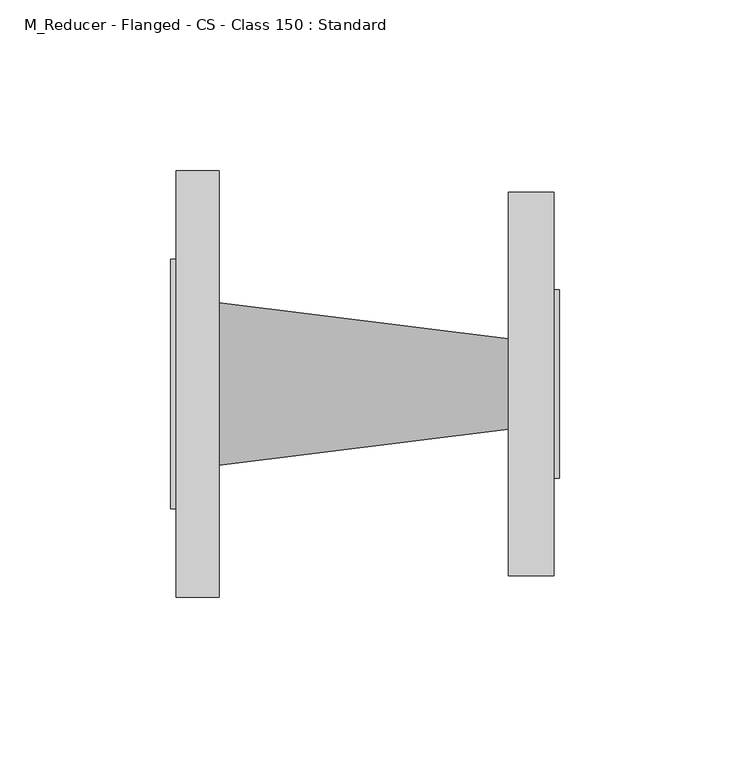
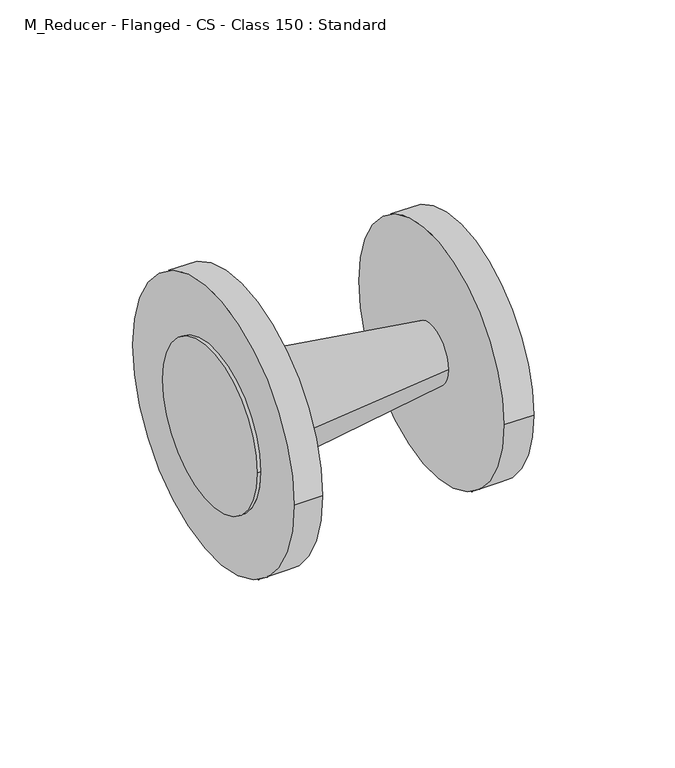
"""IFC4 building model written with IfcOpenShell, lengths in millimetres: pipe fitting geometry, M_Reducer - Flanged - CS - Class 150 : Standard."""

from ifc_helpers import new_model, si_unit, frame, origin, place, context, project, spatial, polyline, circle_curve, source, transform, mapped, element, save
from ifc_brep_helpers import plane_surface, cylinder_surface, revolved_surface, advanced_brep


def m_reducer_flanged_cs_class_150_standard_dc68ad9d(model_context):
    return source(origin(), model_context, "Body", "AdvancedBrep", [
        advanced_brep(
        [(14.2875, -62.5, 0.0), (14.2875, 62.5, 0.0), (14.2875, 23.8, 0.0), (14.2875, -23.8, 0.0), (1.5875, -62.5, 0.0), (1.5875, 62.5, 0.0), (1.5875, -36.5, 0.0), (1.5875, 36.5, 0.0), (99.0109375, 13.2558594, 0.0), (99.0109375, -13.2558594, 0.0), (112.4125, -56.1554688, 0.0), (112.4125, 56.1554687, 0.0), (112.4125, 27.5976562, 0.0), (112.4125, -27.5976563, 0.0), (99.0109375, -56.1554688, 0.0), (99.0109375, 56.1554687, 0.0), (0.0, -36.5, 0.0), (0.0, 36.5, 0.0), (114.0, -27.5976563, 0.0), (114.0, 27.5976562, 0.0)],
        [
            (0, 1, circle_curve(frame((14.2875, 0.0, 0.0), z_axis=(1.0, 0.0, 0.0), x_axis=(0.0, 1.0, 0.0)), 62.5)),
            (1, 0, circle_curve(frame((14.2875, 0.0, 0.0), z_axis=(1.0, 0.0, 0.0), x_axis=(0.0, 1.0, 0.0)), 62.5)),
            (2, 3, circle_curve(frame((14.2875, 0.0, 0.0), z_axis=(-1.0, 0.0, 0.0), x_axis=(0.0, -1.0, 0.0)), 23.8)),
            (3, 2, circle_curve(frame((14.2875, 0.0, 0.0), z_axis=(-1.0, 0.0, 0.0), x_axis=(0.0, 1.0, 0.0)), 23.8)),
            (4, 5, circle_curve(frame((1.5875, 0.0, 0.0), z_axis=(-1.0, 0.0, 0.0), x_axis=(0.0, 1.0, 0.0)), 62.5)),
            (5, 4, circle_curve(frame((1.5875, 0.0, 0.0), z_axis=(-1.0, 0.0, 0.0), x_axis=(0.0, 1.0, 0.0)), 62.5)),
            (6, 7, circle_curve(frame((1.5875, 0.0, 0.0), z_axis=(1.0, 0.0, 0.0), x_axis=(0.0, 1.0, 0.0)), 36.5)),
            (7, 6, circle_curve(frame((1.5875, 0.0, 0.0), z_axis=(1.0, 0.0, 0.0), x_axis=(0.0, 1.0, 0.0)), 36.5)),
            (0, 4),
            (5, 1),
            (2, 8),
            (8, 9, circle_curve(frame((99.0109375, 0.0, 0.0), z_axis=(-1.0, 0.0, 0.0), x_axis=(0.0, -1.0, 0.0)), 13.2558594)),
            (9, 3),
            (9, 8, circle_curve(frame((99.0109375, 0.0, 0.0), z_axis=(-1.0, 0.0, 0.0), x_axis=(0.0, 1.0, 0.0)), 13.2558594)),
            (10, 11, circle_curve(frame((112.4125, 0.0, 0.0), z_axis=(1.0, 0.0, 0.0), x_axis=(0.0, 1.0, 0.0)), 56.1554687)),
            (11, 10, circle_curve(frame((112.4125, 0.0, 0.0), z_axis=(1.0, 0.0, 0.0), x_axis=(0.0, 1.0, 0.0)), 56.1554687)),
            (12, 13, circle_curve(frame((112.4125, 0.0, 0.0), z_axis=(-1.0, 0.0, 0.0), x_axis=(0.0, 1.0, 0.0)), 27.5976563)),
            (13, 12, circle_curve(frame((112.4125, 0.0, 0.0), z_axis=(-1.0, 0.0, 0.0), x_axis=(0.0, 1.0, 0.0)), 27.5976563)),
            (14, 15, circle_curve(frame((99.0109375, 0.0, 0.0), z_axis=(-1.0, 0.0, 0.0), x_axis=(0.0, 1.0, 0.0)), 56.1554687)),
            (15, 14, circle_curve(frame((99.0109375, 0.0, 0.0), z_axis=(-1.0, 0.0, 0.0), x_axis=(0.0, 1.0, 0.0)), 56.1554687)),
            (10, 14),
            (15, 11),
            (16, 17, circle_curve(frame((0.0, 0.0, 0.0), z_axis=(-1.0, 0.0, 0.0), x_axis=(0.0, 1.0, 0.0)), 36.5)),
            (17, 16, circle_curve(frame((0.0, 0.0, 0.0), z_axis=(-1.0, 0.0, 0.0), x_axis=(0.0, 1.0, 0.0)), 36.5)),
            (17, 7),
            (6, 16),
            (18, 19, circle_curve(frame((114.0, 0.0, 0.0), z_axis=(1.0, 0.0, 0.0), x_axis=(0.0, 1.0, 0.0)), 27.5976563)),
            (19, 18, circle_curve(frame((114.0, 0.0, 0.0), z_axis=(1.0, 0.0, 0.0), x_axis=(0.0, 1.0, 0.0)), 27.5976563)),
            (18, 13),
            (12, 19),
        ],
        [
            plane_surface(frame((14.2875, 62.5, 0.0), z_axis=(1.0, 0.0, 0.0), x_axis=(0.0, 0.0, 1.0))),
            plane_surface(frame((1.5875, 62.5, 0.0), z_axis=(-1.0, 0.0, 0.0), x_axis=(0.0, 0.0, -1.0))),
            cylinder_surface(frame((1.5875, 0.0, 0.0), z_axis=(1.0, 0.0, 0.0), x_axis=(0.0, 1.0, 0.0)), 62.5),
            revolved_surface(polyline([(99.0109375, 13.255859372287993, 0.0), (14.287499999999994, 23.8, 0.0)]), (205.5233611, 0.0, 0.0), (-1.0, 0.0, 0.0)),
            plane_surface(frame((112.4125, 56.1554687, 0.0), z_axis=(1.0, 0.0, 0.0), x_axis=(0.0, 0.0, 1.0))),
            plane_surface(frame((99.0109375, 56.1554687, 0.0), z_axis=(-1.0, 0.0, 0.0), x_axis=(0.0, 0.0, -1.0))),
            cylinder_surface(frame((99.0109375, 0.0, 0.0), z_axis=(1.0, 0.0, 0.0), x_axis=(0.0, 1.0, 0.0)), 56.1554687),
            plane_surface(frame((0.0, 36.5, 0.0), z_axis=(-1.0, 0.0, 0.0), x_axis=(0.0, 0.0, -1.0))),
            cylinder_surface(frame((0.0, 0.0, 0.0), z_axis=(1.0, 0.0, 0.0), x_axis=(0.0, 1.0, 0.0)), 36.5),
            plane_surface(frame((114.0, 27.5976562, 0.0), z_axis=(1.0, 0.0, 0.0), x_axis=(0.0, 0.0, 1.0))),
            cylinder_surface(frame((112.4125, 0.0, 0.0), z_axis=(1.0, 0.0, 0.0), x_axis=(0.0, 1.0, 0.0)), 27.5976563),
        ],
        [
            (0, [[1, 2], [3, 4]]),
            (1, [[5, 6], [7, 8]]),
            (2, [[-1, 9, -6, 10]]),
            (2, [[-2, -10, -5, -9]]),
            (3, [[11, 12, 13, -3]]),
            (3, [[-11, -4, -13, 14]]),
            (4, [[15, 16], [17, 18]]),
            (5, [[19, 20], [-12, -14]]),
            (6, [[-15, 21, -20, 22]]),
            (6, [[-16, -22, -19, -21]]),
            (7, [[23, 24]]),
            (8, [[-24, 25, -7, 26]]),
            (8, [[-23, -26, -8, -25]]),
            (9, [[27, 28]]),
            (10, [[-27, 29, -17, 30]]),
            (10, [[-28, -30, -18, -29]]),
        ],
    ),
    ])


if __name__ == "__main__":
    model = new_model("IFC4")
    model_context = context("Model", 3, world=origin())
    ifc_project = project(units=[si_unit("LENGTHUNIT", "METRE", prefix="MILLI")], contexts=[model_context])
    site = spatial("IfcSite", under=ifc_project)
    building = spatial("IfcBuilding", under=site)
    placement = place(None, origin())
    m_reducer_flanged_cs_class_150_standard_shape = m_reducer_flanged_cs_class_150_standard_dc68ad9d(model_context)
    element("IfcPipeFitting", 1, ObjectType="M_Reducer - Flanged - CS - Class 150 : Standard", at=placement, inside=building, context=model_context, shape_type="MappedRepresentation", body=[
        mapped(m_reducer_flanged_cs_class_150_standard_shape, transform((0.0, 0.0, 0.0), x_axis=(1.0, 0.0, 0.0), y_axis=(0.0, 1.0, 0.0), z_axis=(0.0, 0.0, 1.0))),
    ])
    save(model, "model.ifc")
